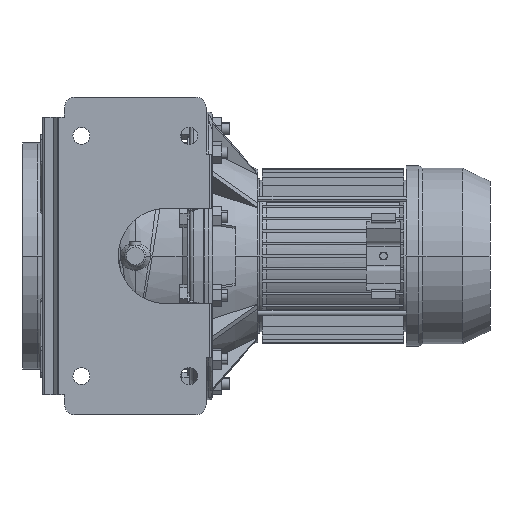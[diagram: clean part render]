
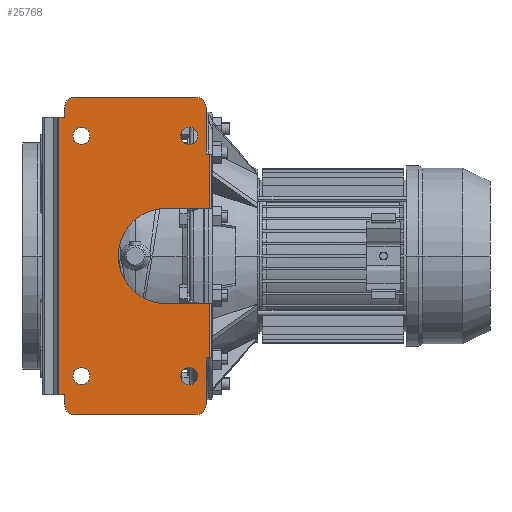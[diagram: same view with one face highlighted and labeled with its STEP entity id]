
A CAD part, front view. The second image highlights one B-rep face of the part: STEP entity #25768.
In plain terms, the highlighted planar face has unit normal (0, -1, 0).
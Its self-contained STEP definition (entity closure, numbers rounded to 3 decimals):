
#21702=CARTESIAN_POINT('',(47.5,-160.,-106.));
#21703=DIRECTION('',(0.,-1.,0.));
#21704=DIRECTION('',(1.,0.,0.));
#21705=AXIS2_PLACEMENT_3D('',#21702,#21703,#21704);
#21710=CARTESIAN_POINT('',(47.5,-160.,-106.));
#21711=DIRECTION('',(0.,-1.,0.));
#21712=DIRECTION('',(-1.,0.,0.));
#21713=AXIS2_PLACEMENT_3D('',#21710,#21711,#21712);
#21718=CARTESIAN_POINT('',(-47.5,-160.,-106.));
#21719=DIRECTION('',(0.,-1.,0.));
#21720=DIRECTION('',(1.,0.,0.));
#21721=AXIS2_PLACEMENT_3D('',#21718,#21719,#21720);
#21726=CARTESIAN_POINT('',(-47.5,-160.,-106.));
#21727=DIRECTION('',(0.,-1.,0.));
#21728=DIRECTION('',(-1.,0.,0.));
#21729=AXIS2_PLACEMENT_3D('',#21726,#21727,#21728);
#21734=CARTESIAN_POINT('',(47.5,-160.,106.));
#21735=DIRECTION('',(0.,-1.,0.));
#21736=DIRECTION('',(1.,0.,0.));
#21737=AXIS2_PLACEMENT_3D('',#21734,#21735,#21736);
#21742=CARTESIAN_POINT('',(47.5,-160.,106.));
#21743=DIRECTION('',(0.,-1.,0.));
#21744=DIRECTION('',(-1.,0.,0.));
#21745=AXIS2_PLACEMENT_3D('',#21742,#21743,#21744);
#21750=CARTESIAN_POINT('',(-47.5,-160.,106.));
#21751=DIRECTION('',(0.,-1.,0.));
#21752=DIRECTION('',(1.,0.,0.));
#21753=AXIS2_PLACEMENT_3D('',#21750,#21751,#21752);
#21758=CARTESIAN_POINT('',(-47.5,-160.,106.));
#21759=DIRECTION('',(0.,-1.,0.));
#21760=DIRECTION('',(-1.,0.,0.));
#21761=AXIS2_PLACEMENT_3D('',#21758,#21759,#21760);
#21766=DIRECTION('',(0.,0.,1.));
#21767=VECTOR('',#21766,48.);
#21768=CARTESIAN_POINT('',(65.5,-160.,-90.));
#21769=LINE('',#21768,#21767);
#21773=DIRECTION('',(0.,0.,-1.));
#21774=VECTOR('',#21773,41.);
#21775=CARTESIAN_POINT('',(62.5,-160.,-90.));
#21776=LINE('',#21775,#21774);
#21780=CARTESIAN_POINT('',(53.5,-160.,-131.));
#21781=DIRECTION('',(0.,-1.,0.));
#21782=DIRECTION('',(0.,0.,-1.));
#21783=AXIS2_PLACEMENT_3D('',#21780,#21781,#21782);
#21788=DIRECTION('',(-1.,0.,0.));
#21789=VECTOR('',#21788,107.);
#21790=CARTESIAN_POINT('',(53.5,-160.,-140.));
#21791=LINE('',#21790,#21789);
#21795=CARTESIAN_POINT('',(-53.5,-160.,-131.));
#21796=DIRECTION('',(0.,-1.,0.));
#21797=DIRECTION('',(-1.,0.,0.));
#21798=AXIS2_PLACEMENT_3D('',#21795,#21796,#21797);
#21803=DIRECTION('',(0.,0.,1.));
#21804=VECTOR('',#21803,8.5);
#21805=CARTESIAN_POINT('',(-62.5,-160.,-131.));
#21806=LINE('',#21805,#21804);
#21810=DIRECTION('',(-1.,0.,0.));
#21811=VECTOR('',#21810,5.172);
#21812=CARTESIAN_POINT('',(-62.5,-160.,-122.5));
#21813=LINE('',#21812,#21811);
#21817=DIRECTION('',(0.,0.,-1.));
#21818=VECTOR('',#21817,245.);
#21819=CARTESIAN_POINT('',(-67.672,-160.,122.5));
#21820=LINE('',#21819,#21818);
#21824=DIRECTION('',(1.,0.,0.));
#21825=VECTOR('',#21824,5.172);
#21826=CARTESIAN_POINT('',(-67.672,-160.,122.5));
#21827=LINE('',#21826,#21825);
#21831=DIRECTION('',(0.,0.,1.));
#21832=VECTOR('',#21831,8.5);
#21833=CARTESIAN_POINT('',(-62.5,-160.,122.5));
#21834=LINE('',#21833,#21832);
#21838=CARTESIAN_POINT('',(-53.5,-160.,131.));
#21839=DIRECTION('',(0.,-1.,0.));
#21840=DIRECTION('',(0.,0.,1.));
#21841=AXIS2_PLACEMENT_3D('',#21838,#21839,#21840);
#21846=DIRECTION('',(1.,0.,0.));
#21847=VECTOR('',#21846,107.);
#21848=CARTESIAN_POINT('',(-53.5,-160.,140.));
#21849=LINE('',#21848,#21847);
#21853=CARTESIAN_POINT('',(53.5,-160.,131.));
#21854=DIRECTION('',(0.,-1.,0.));
#21855=DIRECTION('',(1.,0.,0.));
#21856=AXIS2_PLACEMENT_3D('',#21853,#21854,#21855);
#21861=DIRECTION('',(0.,0.,-1.));
#21862=VECTOR('',#21861,41.);
#21863=CARTESIAN_POINT('',(62.5,-160.,131.));
#21864=LINE('',#21863,#21862);
#21868=DIRECTION('',(0.,0.,1.));
#21869=VECTOR('',#21868,48.);
#21870=CARTESIAN_POINT('',(65.5,-160.,42.));
#21871=LINE('',#21870,#21869);
#21875=CARTESIAN_POINT('',(27.,-160.,0.));
#21876=DIRECTION('',(0.,-1.,0.));
#21877=DIRECTION('',(0.,0.,1.));
#21878=AXIS2_PLACEMENT_3D('',#21875,#21876,#21877);
#21955=DIRECTION('',(1.,0.,0.));
#21956=VECTOR('',#21955,38.5);
#21957=CARTESIAN_POINT('',(27.,-160.,42.));
#21958=LINE('',#21957,#21956);
#22042=DIRECTION('',(-1.,0.,0.));
#22043=VECTOR('',#22042,38.5);
#22044=CARTESIAN_POINT('',(65.5,-160.,-42.));
#22045=LINE('',#22044,#22043);
#23464=DIRECTION('',(1.,0.,0.));
#23465=VECTOR('',#23464,3.);
#23466=CARTESIAN_POINT('',(62.5,-160.,-90.));
#23467=LINE('',#23466,#23465);
#23514=DIRECTION('',(-1.,0.,0.));
#23515=VECTOR('',#23514,3.);
#23516=CARTESIAN_POINT('',(65.5,-160.,90.));
#23517=LINE('',#23516,#23515);
#24599=CARTESIAN_POINT('',(-40.,-160.,106.));
#24600=CARTESIAN_POINT('',(-55.,-160.,106.));
#24601=VERTEX_POINT('',#24599);
#24602=VERTEX_POINT('',#24600);
#24603=CARTESIAN_POINT('',(55.,-160.,106.));
#24604=CARTESIAN_POINT('',(40.,-160.,106.));
#24605=VERTEX_POINT('',#24603);
#24606=VERTEX_POINT('',#24604);
#24607=CARTESIAN_POINT('',(-40.,-160.,-106.));
#24608=CARTESIAN_POINT('',(-55.,-160.,-106.));
#24609=VERTEX_POINT('',#24607);
#24610=VERTEX_POINT('',#24608);
#24611=CARTESIAN_POINT('',(55.,-160.,-106.));
#24612=CARTESIAN_POINT('',(40.,-160.,-106.));
#24613=VERTEX_POINT('',#24611);
#24614=VERTEX_POINT('',#24612);
#24615=CARTESIAN_POINT('',(27.,-160.,42.));
#24616=CARTESIAN_POINT('',(27.,-160.,-42.));
#24617=VERTEX_POINT('',#24615);
#24618=VERTEX_POINT('',#24616);
#24635=CARTESIAN_POINT('',(62.5,-160.,-90.));
#24637=VERTEX_POINT('',#24635);
#24639=CARTESIAN_POINT('',(-62.5,-160.,-122.5));
#24641=VERTEX_POINT('',#24639);
#24643=CARTESIAN_POINT('',(-62.5,-160.,122.5));
#24645=VERTEX_POINT('',#24643);
#24647=CARTESIAN_POINT('',(62.5,-160.,90.));
#24649=VERTEX_POINT('',#24647);
#24656=CARTESIAN_POINT('',(-62.5,-160.,131.));
#24658=VERTEX_POINT('',#24656);
#24661=CARTESIAN_POINT('',(-53.5,-160.,140.));
#24662=VERTEX_POINT('',#24661);
#24664=CARTESIAN_POINT('',(53.5,-160.,140.));
#24666=VERTEX_POINT('',#24664);
#24669=CARTESIAN_POINT('',(62.5,-160.,131.));
#24670=VERTEX_POINT('',#24669);
#24672=CARTESIAN_POINT('',(62.5,-160.,-131.));
#24674=VERTEX_POINT('',#24672);
#24677=CARTESIAN_POINT('',(53.5,-160.,-140.));
#24678=VERTEX_POINT('',#24677);
#24680=CARTESIAN_POINT('',(-53.5,-160.,-140.));
#24682=VERTEX_POINT('',#24680);
#24685=CARTESIAN_POINT('',(-62.5,-160.,-131.));
#24686=VERTEX_POINT('',#24685);
#24795=CARTESIAN_POINT('',(65.5,-160.,42.));
#24797=VERTEX_POINT('',#24795);
#24799=CARTESIAN_POINT('',(65.5,-160.,-42.));
#24801=VERTEX_POINT('',#24799);
#24803=CARTESIAN_POINT('',(65.5,-160.,-90.));
#24804=VERTEX_POINT('',#24803);
#24805=CARTESIAN_POINT('',(65.5,-160.,90.));
#24806=VERTEX_POINT('',#24805);
#24819=CARTESIAN_POINT('',(-67.672,-160.,-122.5));
#24821=VERTEX_POINT('',#24819);
#24825=CARTESIAN_POINT('',(-67.672,-160.,122.5));
#24826=VERTEX_POINT('',#24825);
#25700=CARTESIAN_POINT('',(67.5,-160.,42.));
#25701=DIRECTION('',(0.,1.,0.));
#25702=DIRECTION('',(0.,0.,1.));
#25703=AXIS2_PLACEMENT_3D('',#25700,#25701,#25702);
#25704=PLANE('',#25703);
#25706=ORIENTED_EDGE('',*,*,#25705,.F.);
#25708=ORIENTED_EDGE('',*,*,#25707,.F.);
#25710=ORIENTED_EDGE('',*,*,#25709,.T.);
#25712=ORIENTED_EDGE('',*,*,#25711,.F.);
#25714=ORIENTED_EDGE('',*,*,#25713,.T.);
#25716=ORIENTED_EDGE('',*,*,#25715,.F.);
#25718=ORIENTED_EDGE('',*,*,#25717,.T.);
#25719=ORIENTED_EDGE('',*,*,#25346,.T.);
#25721=ORIENTED_EDGE('',*,*,#25720,.F.);
#25722=ORIENTED_EDGE('',*,*,#25395,.T.);
#25724=ORIENTED_EDGE('',*,*,#25723,.T.);
#25726=ORIENTED_EDGE('',*,*,#25725,.F.);
#25728=ORIENTED_EDGE('',*,*,#25727,.T.);
#25730=ORIENTED_EDGE('',*,*,#25729,.F.);
#25732=ORIENTED_EDGE('',*,*,#25731,.T.);
#25734=ORIENTED_EDGE('',*,*,#25733,.F.);
#25736=ORIENTED_EDGE('',*,*,#25735,.F.);
#25738=ORIENTED_EDGE('',*,*,#25737,.F.);
#25740=ORIENTED_EDGE('',*,*,#25739,.T.);
#25742=ORIENTED_EDGE('',*,*,#25741,.F.);
#25743=EDGE_LOOP('',(#25706,#25708,#25710,#25712,#25714,#25716,#25718,#25719,
#25721,#25722,#25724,#25726,#25728,#25730,#25732,#25734,#25736,#25738,#25740,
#25742));
#25744=FACE_OUTER_BOUND('',#25743,.F.);
#25746=ORIENTED_EDGE('',*,*,#25745,.T.);
#25748=ORIENTED_EDGE('',*,*,#25747,.T.);
#25749=EDGE_LOOP('',(#25746,#25748));
#25750=FACE_BOUND('',#25749,.F.);
#25752=ORIENTED_EDGE('',*,*,#25751,.T.);
#25754=ORIENTED_EDGE('',*,*,#25753,.T.);
#25755=EDGE_LOOP('',(#25752,#25754));
#25756=FACE_BOUND('',#25755,.F.);
#25757=ORIENTED_EDGE('',*,*,#25690,.T.);
#25759=ORIENTED_EDGE('',*,*,#25758,.T.);
#25760=EDGE_LOOP('',(#25757,#25759));
#25761=FACE_BOUND('',#25760,.F.);
#25763=ORIENTED_EDGE('',*,*,#25762,.T.);
#25765=ORIENTED_EDGE('',*,*,#25764,.T.);
#25766=EDGE_LOOP('',(#25763,#25765));
#25767=FACE_BOUND('',#25766,.F.);
#21706=CIRCLE('',#21705,7.5);
#21714=CIRCLE('',#21713,7.5);
#21722=CIRCLE('',#21721,7.5);
#21730=CIRCLE('',#21729,7.5);
#21738=CIRCLE('',#21737,7.5);
#21746=CIRCLE('',#21745,7.5);
#21754=CIRCLE('',#21753,7.5);
#21762=CIRCLE('',#21761,7.5);
#21784=CIRCLE('',#21783,9.);
#21799=CIRCLE('',#21798,9.);
#21842=CIRCLE('',#21841,9.);
#21857=CIRCLE('',#21856,9.);
#21879=CIRCLE('',#21878,42.);
#25346=EDGE_CURVE('',#24641,#24821,#21813,.T.);
#25395=EDGE_CURVE('',#24826,#24645,#21827,.T.);
#25690=EDGE_CURVE('',#24601,#24602,#21754,.T.);
#25705=EDGE_CURVE('',#24804,#24801,#21769,.T.);
#25707=EDGE_CURVE('',#24637,#24804,#23467,.T.);
#25709=EDGE_CURVE('',#24637,#24674,#21776,.T.);
#25711=EDGE_CURVE('',#24678,#24674,#21784,.T.);
#25713=EDGE_CURVE('',#24678,#24682,#21791,.T.);
#25715=EDGE_CURVE('',#24686,#24682,#21799,.T.);
#25717=EDGE_CURVE('',#24686,#24641,#21806,.T.);
#25720=EDGE_CURVE('',#24826,#24821,#21820,.T.);
#25723=EDGE_CURVE('',#24645,#24658,#21834,.T.);
#25725=EDGE_CURVE('',#24662,#24658,#21842,.T.);
#25727=EDGE_CURVE('',#24662,#24666,#21849,.T.);
#25729=EDGE_CURVE('',#24670,#24666,#21857,.T.);
#25731=EDGE_CURVE('',#24670,#24649,#21864,.T.);
#25733=EDGE_CURVE('',#24806,#24649,#23517,.T.);
#25735=EDGE_CURVE('',#24797,#24806,#21871,.T.);
#25737=EDGE_CURVE('',#24617,#24797,#21958,.T.);
#25739=EDGE_CURVE('',#24617,#24618,#21879,.T.);
#25741=EDGE_CURVE('',#24801,#24618,#22045,.T.);
#25745=EDGE_CURVE('',#24609,#24610,#21722,.T.);
#25747=EDGE_CURVE('',#24610,#24609,#21730,.T.);
#25751=EDGE_CURVE('',#24605,#24606,#21738,.T.);
#25753=EDGE_CURVE('',#24606,#24605,#21746,.T.);
#25758=EDGE_CURVE('',#24602,#24601,#21762,.T.);
#25762=EDGE_CURVE('',#24613,#24614,#21706,.T.);
#25764=EDGE_CURVE('',#24614,#24613,#21714,.T.);
#25768=ADVANCED_FACE('',(#25744,#25750,#25756,#25761,#25767),#25704,.F.);
